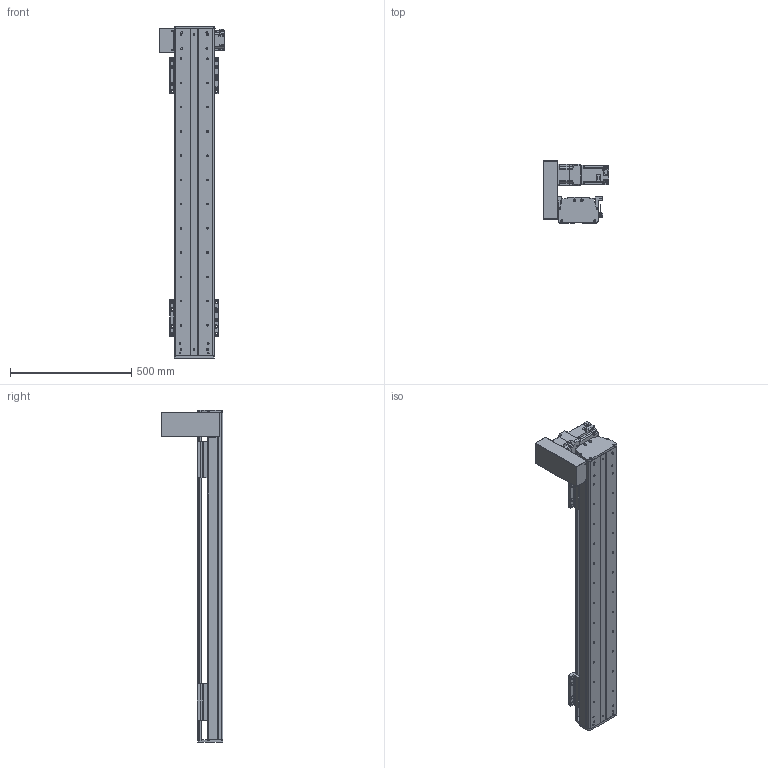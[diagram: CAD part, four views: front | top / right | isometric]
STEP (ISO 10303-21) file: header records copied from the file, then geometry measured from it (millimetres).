
FILE_DESCRIPTION(/* description */ (''),/* implementation_level */ '2;1');
FILE_NAME(/* name */ 'C:\Users\PC\Desktop\3D도면\STEP\DSB165-UL7G-W1000-R.stp',/* time_stamp */ '2018-06-25T15:06:05+09:00',/* author */ ('PC'),/* organization */ (''),/* preprocessor_version */ 'ST-DEVELOPER v16.5',/* originating_system */ 'Autodesk Inventor 2017',/* authorisation */ '');
FILE_SCHEMA (('AUTOMOTIVE_DESIGN { 1 0 10303 214 3 1 1 }'));
Length unit declared in the file: millimetre
Products named in the file (12): DSB165-L; DSR165-BASE_S; hg-kr73_; ab0901-p0401300102; 11-DBS165 BELT COVER; DBS165-COVER; DBS165-COVER_1; DBS165-UP COVER; DSR126-SENSOR DOG; pm-y65_step; SENSOR BRACKET(EE-SX674A); DBS165-TABLE(MSA20S)
Assembly tree (16 placements, depth 2):
  DSB165-L
    DSR165-BASE_S
    hg-kr73_
    ab0901-p0401300102
    11-DBS165 BELT COVER
    DBS165-COVER
    DBS165-COVER_1
    DBS165-UP COVER
    DSR126-SENSOR DOG
    pm-y65_step  x3
    SENSOR BRACKET(EE-SX674A)  x3
    DBS165-TABLE(MSA20S)  x2
Bounding box: 270 x 254 x 1370 mm (x, y, z)
Volume: 8867023.8 mm3; surface area: 2054384.4 mm2
Topology: 17 solids, 22 shells, 1679 faces, 4505 edges, 2970 vertices
Faces by surface type: plane 926, cylinder 625, cone 116, sphere 8, torus 4
Full cylindrical faces by diameter (mm): 2.459 x20, 3.5 x6, 4.134 x42, 4.5 x18, 5 x27, 5.5 x36, 5.9 x4, 6 x8, 6.6 x14, 6.647 x44, 6.8 x1, 7 x4, 7.6 x4, 8 x1, 8.4 x1, 8.5 x24, 8.7 x1, 9.5 x32, 11 x6, 14 x16, 19 x1, 22 x1, 24 x1, 25 x1, 28 x1, 67 x1, 70 x2, 80 x1
Entity records: 35709 total; most frequent: DIRECTION 6316, CARTESIAN_POINT 6115, ORIENTED_EDGE 5558, EDGE_CURVE 2784, AXIS2_PLACEMENT_3D 2328, VERTEX_POINT 1989, EDGE_LOOP 1755, LINE 1660
